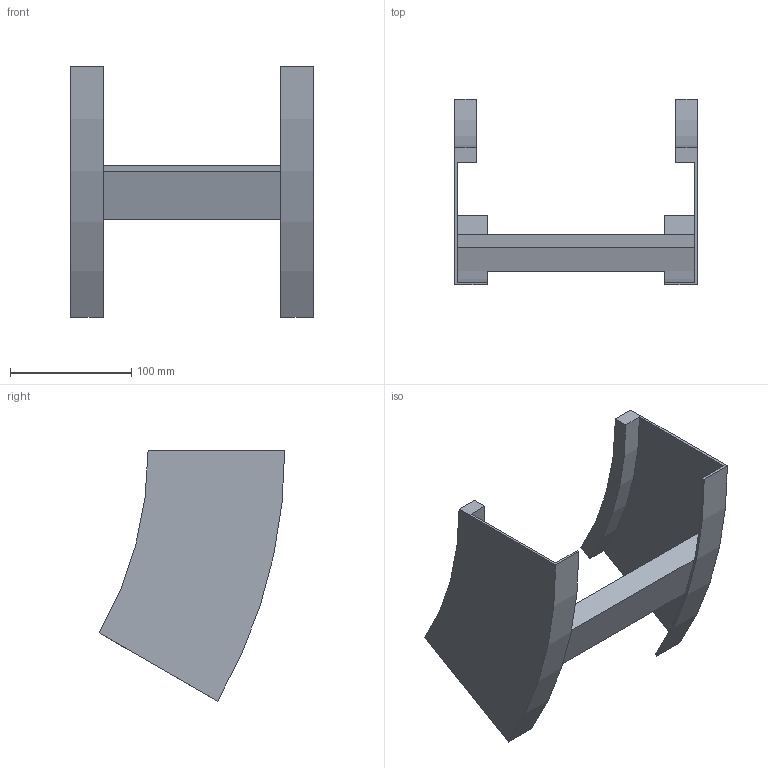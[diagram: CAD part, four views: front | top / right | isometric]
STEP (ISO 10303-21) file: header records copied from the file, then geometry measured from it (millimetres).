
FILE_DESCRIPTION (( 'STEP AP214' ), '1' );
FILE_NAME ('B2X32B3J200XX.step', '2025-03-20T10:00:16', ( '' ), ( '' ), 'SwSTEP 2.0', 'SolidWorks 2023', '' );
FILE_SCHEMA (( 'AUTOMOTIVE_DESIGN' ));
Length unit declared in the file: millimetre
Products named in the file (3): TRAVERSINO_200; B2X32B3J200XX; B2_LONGH.SALITA_30°_H112.5_R300
Assembly tree (3 placements, depth 2):
  B2X32B3J200XX
    B2_LONGH.SALITA_30°_H112.5_R300  x2
    TRAVERSINO_200
Bounding box: 200 x 152.69 x 206.25 mm (x, y, z)
Volume: 325770.5 mm3; surface area: 144435.9 mm2
Topology: 3 solids, 3 shells, 26 faces, 60 edges, 40 vertices
Faces by surface type: plane 18, cylinder 8
Entity records: 544 total; most frequent: DIRECTION 88, CARTESIAN_POINT 82, ORIENTED_EDGE 72, EDGE_CURVE 36, AXIS2_PLACEMENT_3D 30, LINE 28, VECTOR 28, VERTEX_POINT 24
